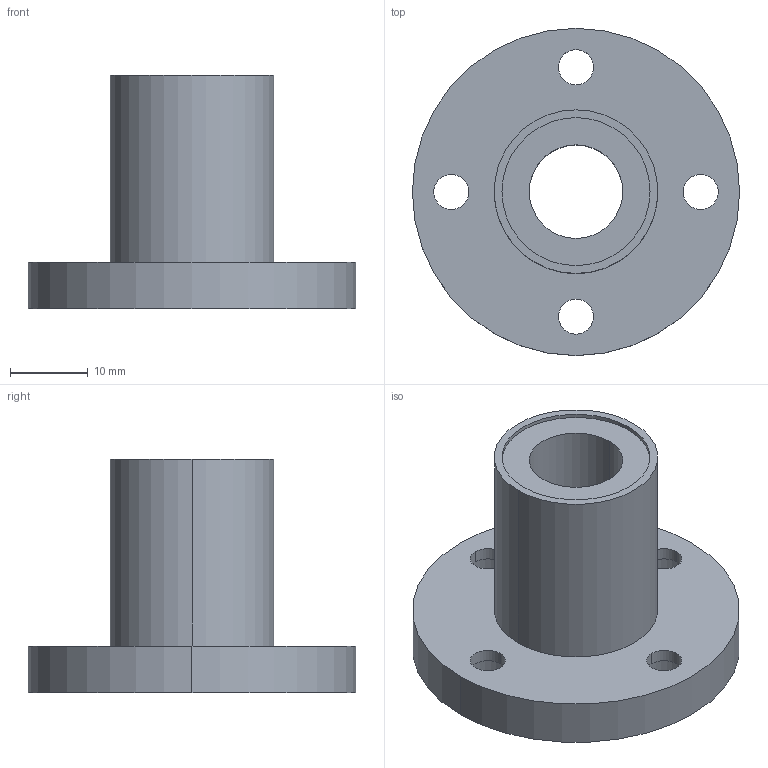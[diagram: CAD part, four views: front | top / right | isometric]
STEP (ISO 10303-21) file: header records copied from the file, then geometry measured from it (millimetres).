
FILE_DESCRIPTION((''),'2;1');
FILE_NAME('C:\Documents and Settings\ｿﾀﾀ蠑ｷ1\ｹﾙﾅﾁ ﾈｭｸ饅\ｺﾎﾇｰﾆﾄﾀﾏ\ﾁｦﾇｰ\LMF__UU\LMF12UU.stp','2005-06-15T09:36:37',('ｿﾀﾀ蠑ｷ1'),(''),'Autodesk Inventor 9','Autodesk Inventor 9','');
FILE_SCHEMA(('AUTOMOTIVE_DESIGN { 1 0 10303 214 1 1 1 1 }'));
Length unit declared in the file: millimetre
Products named in the file (1): LMF__
Bounding box: 42 x 42 x 30 mm (x, y, z)
Volume: 12039.6 mm3; surface area: 6482.4 mm2
Topology: 1 solids, 1 shells, 38 faces, 84 edges, 56 vertices
Faces by surface type: cylinder 28, plane 10
Entity records: 1127 total; most frequent: DIRECTION 218, CARTESIAN_POINT 179, ORIENTED_EDGE 168, AXIS2_PLACEMENT_3D 95, EDGE_CURVE 84, VERTEX_POINT 56, CIRCLE 56, EDGE_LOOP 56
